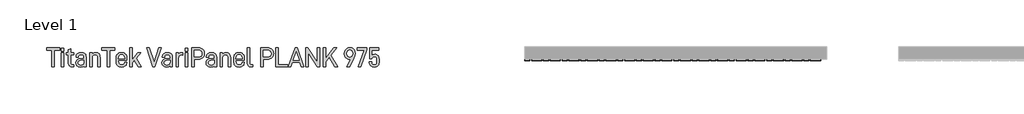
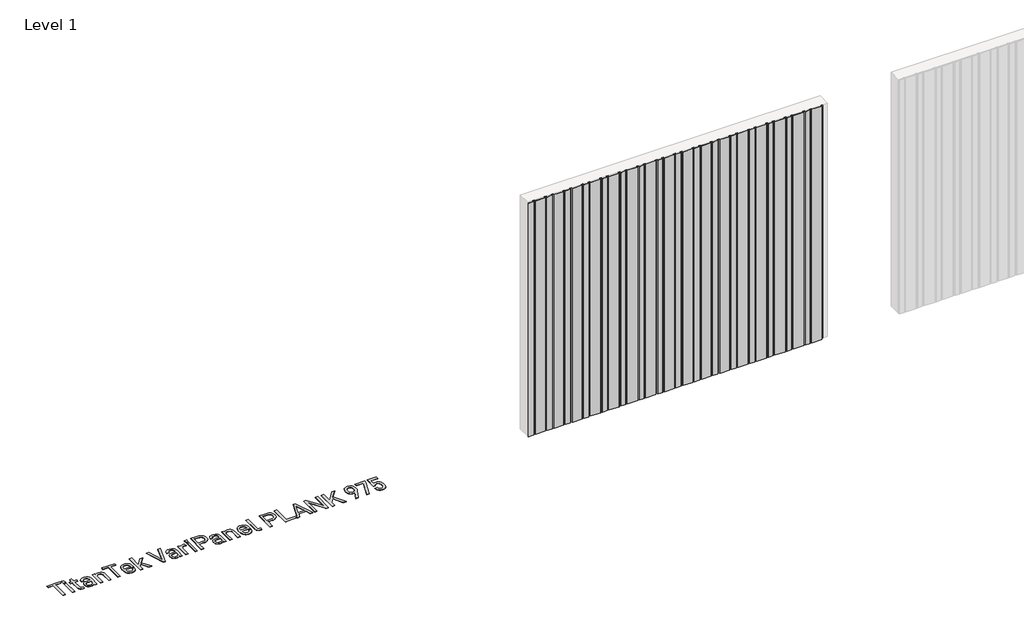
# One storey, part 19 of 33: 2 proxies.
"""IFC4 building model written with IfcOpenShell, lengths in millimetres."""

from ifc_helpers import new_model, si_unit, origin, origin_with_axes, place, context, project, spatial, polyline, outline, extrude, transform, mapped, element, save
from components import aluminum_slate_gray_adac02c7

model = new_model("IFC4")

# Units and contexts
model_context = context("Model", 3, world=origin())
ifc_project = project(units=[si_unit("LENGTHUNIT", "METRE", prefix="MILLI")], contexts=[model_context])

# Site, building, storey
site = spatial("IfcSite", under=ifc_project)
building = spatial("IfcBuilding", under=site)
storey = spatial("IfcBuildingStorey", under=building, Name="Level 1", Elevation=0.0)

# Proxies
placement = place(None, origin())
element("IfcBuildingElementProxy", 1, Name="600mm Arial 2", ObjectType="600mm Arial 2", at=placement, inside=storey, context=model_context, shape_type="SweptSolid", body=[
    extrude(outline(polyline([(-9914.9924556, 57220.4128343), (-9914.9924556, 56952.9873502), (-9954.4439015, 56952.9873502), (-9954.4439015, 57220.4128343), (-10038.8787304, 57220.4128343), (-10038.8787304, 57257.3166776), (-9830.5576267, 57257.3166776), (-9830.5576267, 57220.4128343), (-9914.9924556, 57220.4128343)])), origin_with_axes(), (0.0, 0.0, 1.0), 5.0),
    extrude(outline(polyline([(-9763.1553408, 57253.0221475), (-9763.1553408, 57205.8551051), (-9802.6067867, 57205.8551051), (-9802.6067867, 57253.0221475), (-9763.1553408, 57253.0221475)])), origin_with_axes(), (0.0, 0.0, 1.0), 5.0),
    extrude(outline(polyline([(-9764.0288046, 57178.8505176), (-9764.0288046, 56952.9873502), (-9801.733323, 56952.9873502), (-9801.733323, 57178.8505176), (-9764.0288046, 57178.8505176)])), origin_with_axes(), (0.0, 0.0, 1.0), 5.0),
    extrude(outline(polyline([(-9648.294858, 57012.601251), (-9646.8208879, 57001.5191797), (-9642.3989777, 56993.6034145), (-9635.0291273, 56988.8539554), (-9624.7113368, 56987.2708023), (-9603.2386864, 56987.2708023), (-9603.2386864, 56952.9873502), (-9629.3698101, 56952.9873502), (-9653.1535001, 56956.9543314), (-9671.3688587, 56968.855275), (-9682.6692959, 56987.3981825), (-9686.4361083, 57011.2910554), (-9686.4361083, 57147.1146681), (-9720.2828285, 57147.1146681), (-9720.2828285, 57178.8505176), (-9686.4361083, 57178.8505176), (-9686.4361083, 57226.8910237), (-9648.294858, 57244.8698192), (-9648.294858, 57178.8505176), (-9599.3808881, 57178.8505176), (-9599.3808881, 57147.1146681), (-9648.294858, 57147.1146681), (-9648.294858, 57012.601251)])), origin_with_axes(), (0.0, 0.0, 1.0), 5.0),
    extrude(outline(polyline([(-9422.8684225, 57162.1091291), (-9413.2830677, 57151.3409589), (-9406.4363858, 57138.2526505), (-9400.9590402, 57105.1156196), (-9400.9590402, 56952.9873502), (-9438.2996154, 56952.9873502), (-9438.2996154, 56969.2920069), (-9456.7151427, 56956.8451485), (-9473.7476858, 56952.0410978), (-9493.9829293, 56950.4397476), (-9526.0281305, 56954.7160806), (-9550.1029751, 56967.5450794), (-9565.2248162, 56989.3270816), (-9570.2654299, 57018.5699199), (-9565.1338304, 57046.2114081), (-9549.7390318, 57067.4111012), (-9525.063681, 57080.6222403), (-9493.1094655, 57085.0259534), (-9438.7363472, 57085.0259534), (-9438.7363472, 57105.5523515), (-9441.6296959, 57124.441005), (-9450.3097419, 57138.1616647), (-9464.2305704, 57146.1866129), (-9483.7197302, 57148.8615956), (-9502.2262434, 57146.6051476), (-9515.819523, 57139.8358036), (-9524.1720201, 57129.4816187), (-9526.9561857, 57115.4516073), (-9526.9561857, 57109.8468816), (-9563.8600291, 57109.8468816), (-9563.8600291, 57116.2522824), (-9558.4008807, 57143.2932642), (-9542.0234354, 57164.2927885), (-9516.8203668, 57177.4493362), (-9484.1564621, 57181.8348521), (-9448.6719974, 57176.9034213), (-9434.5600987, 57170.7391329), (-9422.8684225, 57162.1091291)]), holes=[polyline([(-9450.6736851, 56994.5496669), (-9441.7206817, 57009.4531421), (-9438.7363472, 57031.0167784), (-9438.7363472, 57054.9642428), (-9488.8149354, 57054.9642428), (-9507.9538, 57052.7168933), (-9521.6244175, 57045.974845), (-9529.826788, 57034.7380979), (-9532.5609115, 57019.0066518), (-9529.8540837, 57003.0522906), (-9521.7336004, 56991.6563182), (-9508.1994616, 56984.8187348), (-9489.2516673, 56982.5395404), (-9466.104878, 56985.542072), (-9450.6736851, 56994.5496669)])]), origin_with_axes(), (0.0, 0.0, 1.0), 5.0),
    extrude(outline(polyline([(-9306.6977441, 57178.8505176), (-9306.6977441, 57160.4349903), (-9288.2822167, 57173.6825238), (-9271.1222935, 57179.4692211), (-9252.2518372, 57181.3981202), (-9219.9154813, 57175.9389718), (-9206.7907787, 57169.1150363), (-9195.6950595, 57159.5615265), (-9187.0650557, 57147.9790333), (-9180.9007673, 57134.1946835), (-9175.9693365, 57100.0204144), (-9175.9693365, 56952.9873502), (-9213.673855, 56952.9873502), (-9213.673855, 57095.7258843), (-9216.6763866, 57118.1083928), (-9225.6839815, 57133.8671346), (-9240.3781893, 57143.4752358), (-9259.567096, 57146.6779363), (-9278.7378056, 57143.4752358), (-9293.3774219, 57133.8671346), (-9303.0401146, 57117.453295), (-9306.2610122, 57095.7258843), (-9306.2610122, 56952.9873502), (-9343.9655306, 56952.9873502), (-9343.9655306, 57178.8505176), (-9306.6977441, 57178.8505176)])), origin_with_axes(), (0.0, 0.0, 1.0), 5.0),
    extrude(outline(polyline([(-9025.2240514, 57220.4128343), (-9025.2240514, 56952.9873502), (-9064.6754974, 56952.9873502), (-9064.6754974, 57220.4128343), (-9149.1103263, 57220.4128343), (-9149.1103263, 57257.3166776), (-8940.7892225, 57257.3166776), (-8940.7892225, 57220.4128343), (-9025.2240514, 57220.4128343)])), origin_with_axes(), (0.0, 0.0, 1.0), 5.0),
    extrude(outline(polyline([(-8884.5235994, 57047.2486463), (-8881.1025331, 57017.8329349), (-8870.8393341, 56998.8805913), (-8854.3527058, 56988.5900965), (-8832.2613519, 56985.1599316), (-8812.990558, 56987.7257314), (-8798.8513635, 56995.4231306), (-8790.1713175, 57007.1966941), (-8787.2779689, 57022.86445), (-8787.2779689, 57028.3963871), (-8750.3741256, 57028.3963871), (-8750.3741256, 57021.9909863), (-8756.0516399, 56992.8391337), (-8763.1485329, 56980.528754), (-8773.084183, 56969.7287387), (-8799.7976159, 56955.2619954), (-8834.3722226, 56950.4397476), (-8853.3222916, 56951.9387388), (-8870.2843206, 56956.4357123), (-8885.2583098, 56963.9306682), (-8898.2442591, 56974.4236064), (-8908.7371973, 56988.0237099), (-8916.2321532, 57004.8401617), (-8920.7291267, 57024.8729617), (-8922.2281179, 57048.1221101), (-8922.2281179, 57085.8266285), (-8920.7314014, 57108.5321367), (-8916.2412518, 57128.1714231), (-8908.7576691, 57144.7444879), (-8898.2806535, 57158.2513309), (-8885.4971476, 57168.5691214), (-8870.7301511, 57175.9389718), (-8853.979664, 57180.360882), (-8835.2456864, 57181.8348521), (-8816.8438069, 57180.360882), (-8800.2161506, 57175.9389718), (-8785.3627176, 57168.5691214), (-8772.2835079, 57158.2513309), (-8761.9657174, 57144.9082623), (-8754.595867, 57128.389789), (-8750.1739568, 57108.6959111), (-8748.6999867, 57085.8266285), (-8748.6999867, 57055.8377065), (-8884.5235994, 57055.8377065), (-8884.5235994, 57047.2486463)]), holes=[polyline([(-8871.2760659, 57133.4304027), (-8881.2117161, 57115.30603), (-8884.5235994, 57086.7000923), (-8786.4045051, 57086.2633604), (-8786.4045051, 57089.6844267), (-8789.6254027, 57116.9255774), (-8799.2880954, 57134.3038665), (-8814.9012599, 57143.5844188), (-8835.2456864, 57146.6779363), (-8855.60831, 57143.3660529), (-8871.2760659, 57133.4304027)])]), origin_with_axes(), (0.0, 0.0, 1.0), 5.0),
    extrude(outline(polyline([(-8663.391694, 57020.3168474), (-8663.391694, 56952.9873502), (-8701.0962125, 56952.9873502), (-8701.0962125, 57257.3166776), (-8663.391694, 57257.3166776), (-8663.391694, 57070.8321675), (-8575.0990669, 57178.8505176), (-8528.3687564, 57178.8505176), (-8602.5403863, 57091.8680861), (-8517.6688255, 56952.9873502), (-8563.5256722, 56952.9873502), (-8627.7980463, 57062.6798392), (-8663.391694, 57020.3168474)])), origin_with_axes(), (0.0, 0.0, 1.0), 5.0),
    extrude(outline(polyline([(-8240.5624516, 57257.3166776), (-8199.0001349, 57257.3166776), (-8298.4294248, 56952.9873502), (-8330.1652743, 56952.9873502), (-8429.1578324, 57257.3166776), (-8387.5955157, 57257.3166776), (-8313.8606177, 57022.86445), (-8240.5624516, 57257.3166776)])), origin_with_axes(), (0.0, 0.0, 1.0), 5.0),
    extrude(outline(polyline([(-8039.3018464, 57162.1091291), (-8029.7164916, 57151.3409589), (-8022.8698097, 57138.2526505), (-8017.3924641, 57105.1156196), (-8017.3924641, 56952.9873502), (-8054.7330393, 56952.9873502), (-8054.7330393, 56969.2920069), (-8073.1485666, 56956.8451485), (-8090.1811097, 56952.0410978), (-8110.4163532, 56950.4397476), (-8142.4615544, 56954.7160806), (-8166.536399, 56967.5450794), (-8181.6582401, 56989.3270816), (-8186.6988538, 57018.5699199), (-8181.5672543, 57046.2114081), (-8166.1724557, 57067.4111012), (-8141.4971049, 57080.6222403), (-8109.5428894, 57085.0259534), (-8055.1697712, 57085.0259534), (-8055.1697712, 57105.5523515), (-8058.0631198, 57124.441005), (-8066.7431658, 57138.1616647), (-8080.6639943, 57146.1866129), (-8100.1531542, 57148.8615956), (-8118.6596673, 57146.6051476), (-8132.2529469, 57139.8358036), (-8140.605444, 57129.4816187), (-8143.3896097, 57115.4516073), (-8143.3896097, 57109.8468816), (-8180.293453, 57109.8468816), (-8180.293453, 57116.2522824), (-8174.8343046, 57143.2932642), (-8158.4568593, 57164.2927885), (-8133.2537908, 57177.4493362), (-8100.589886, 57181.8348521), (-8065.1054213, 57176.9034213), (-8050.9935226, 57170.7391329), (-8039.3018464, 57162.1091291)]), holes=[polyline([(-8067.107109, 56994.5496669), (-8058.1541056, 57009.4531421), (-8055.1697712, 57031.0167784), (-8055.1697712, 57054.9642428), (-8105.2483594, 57054.9642428), (-8124.3872239, 57052.7168933), (-8138.0578414, 57045.974845), (-8146.2602119, 57034.7380979), (-8148.9943354, 57019.0066518), (-8146.2875076, 57003.0522906), (-8138.1670243, 56991.6563182), (-8124.6328855, 56984.8187348), (-8105.6850912, 56982.5395404), (-8082.5383019, 56985.542072), (-8067.107109, 56994.5496669)])]), origin_with_axes(), (0.0, 0.0, 1.0), 5.0),
    extrude(outline(polyline([(-7870.4321886, 57181.8348521), (-7850.2697337, 57179.7239814), (-7850.2697337, 57140.7092673), (-7876.8375894, 57146.313993), (-7895.1712295, 57142.7746451), (-7909.8472402, 57132.1566015), (-7919.4826371, 57115.7518604), (-7922.6944361, 57094.8524206), (-7922.6944361, 56952.9873502), (-7960.3989546, 56952.9873502), (-7960.3989546, 57178.8505176), (-7923.131168, 57178.8505176), (-7923.131168, 57159.1247947), (-7905.5891044, 57173.3185806), (-7889.4846166, 57179.7057842), (-7870.4321886, 57181.8348521)])), origin_with_axes(), (0.0, 0.0, 1.0), 5.0),
    extrude(outline(polyline([(-7773.9872331, 57253.0221475), (-7773.9872331, 57205.8551051), (-7813.438679, 57205.8551051), (-7813.438679, 57253.0221475), (-7773.9872331, 57253.0221475)])), origin_with_axes(), (0.0, 0.0, 1.0), 5.0),
    extrude(outline(polyline([(-7774.8606969, 57178.8505176), (-7774.8606969, 56952.9873502), (-7812.5652153, 56952.9873502), (-7812.5652153, 57178.8505176), (-7774.8606969, 57178.8505176)])), origin_with_axes(), (0.0, 0.0, 1.0), 5.0),
    extrude(outline(polyline([(-7529.6357497, 57233.2964245), (-7518.2033831, 57219.8396237), (-7510.0374069, 57203.926206), (-7505.1378212, 57185.5561716), (-7503.504626, 57164.7295204), (-7505.1651169, 57145.044741), (-7510.1465899, 57127.5527196), (-7518.4490448, 57112.2534562), (-7530.0724816, 57099.1469507), (-7544.1297888, 57088.6380899), (-7560.6073184, 57081.1317609), (-7579.5050706, 57076.6279634), (-7600.8230452, 57075.1266976), (-7671.5008201, 57075.1266976), (-7671.5008201, 56952.9873502), (-7711.3889979, 56952.9873502), (-7711.3889979, 57257.3166776), (-7600.8230452, 57257.3166776), (-7579.6415493, 57255.8154118), (-7560.7165014, 57251.3116143), (-7544.0479016, 57243.8052853), (-7529.6357497, 57233.2964245)]), holes=[polyline([(-7558.3872648, 57125.2780744), (-7547.141419, 57141.5827311), (-7543.3928038, 57164.7295204), (-7547.250602, 57189.3502798), (-7558.8239966, 57206.7285689), (-7577.8946218, 57216.9917679), (-7603.3706478, 57220.4128343), (-7671.5008201, 57220.4128343), (-7671.5008201, 57112.0305409), (-7603.3706478, 57112.0305409), (-7577.130341, 57115.3424243), (-7558.3872648, 57125.2780744)])]), origin_with_axes(), (0.0, 0.0, 1.0), 5.0),
    extrude(outline(polyline([(-7331.2139018, 57162.1091291), (-7321.628547, 57151.3409589), (-7314.781865, 57138.2526505), (-7309.3045194, 57105.1156196), (-7309.3045194, 56952.9873502), (-7346.6450946, 56952.9873502), (-7346.6450946, 56969.2920069), (-7365.060622, 56956.8451485), (-7382.093165, 56952.0410978), (-7402.3284085, 56950.4397476), (-7434.3736098, 56954.7160806), (-7458.4484543, 56967.5450794), (-7473.5702954, 56989.3270816), (-7478.6109091, 57018.5699199), (-7473.4793096, 57046.2114081), (-7458.0845111, 57067.4111012), (-7433.4091602, 57080.6222403), (-7401.4549448, 57085.0259534), (-7347.0818265, 57085.0259534), (-7347.0818265, 57105.5523515), (-7349.9751752, 57124.441005), (-7358.6552212, 57138.1616647), (-7372.5760496, 57146.1866129), (-7392.0652095, 57148.8615956), (-7410.5717226, 57146.6051476), (-7424.1650022, 57139.8358036), (-7432.5174993, 57129.4816187), (-7435.301665, 57115.4516073), (-7435.301665, 57109.8468816), (-7472.2055083, 57109.8468816), (-7472.2055083, 57116.2522824), (-7466.7463599, 57143.2932642), (-7450.3689146, 57164.2927885), (-7425.1658461, 57177.4493362), (-7392.5019414, 57181.8348521), (-7357.0174766, 57176.9034213), (-7342.905578, 57170.7391329), (-7331.2139018, 57162.1091291)]), holes=[polyline([(-7359.0191644, 56994.5496669), (-7350.066161, 57009.4531421), (-7347.0818265, 57031.0167784), (-7347.0818265, 57054.9642428), (-7397.1604147, 57054.9642428), (-7416.2992792, 57052.7168933), (-7429.9698967, 57045.974845), (-7438.1722672, 57034.7380979), (-7440.9063907, 57019.0066518), (-7438.199563, 57003.0522906), (-7430.0790797, 56991.6563182), (-7416.5449409, 56984.8187348), (-7397.5971466, 56982.5395404), (-7374.4503573, 56985.542072), (-7359.0191644, 56994.5496669)])]), origin_with_axes(), (0.0, 0.0, 1.0), 5.0),
    extrude(outline(polyline([(-7215.0432233, 57178.8505176), (-7215.0432233, 57160.4349903), (-7196.627696, 57173.6825238), (-7179.4677728, 57179.4692211), (-7160.5973164, 57181.3981202), (-7128.2609606, 57175.9389718), (-7115.1362579, 57169.1150363), (-7104.0405387, 57159.5615265), (-7095.410535, 57147.9790333), (-7089.2462465, 57134.1946835), (-7084.3148158, 57100.0204144), (-7084.3148158, 56952.9873502), (-7122.0193342, 56952.9873502), (-7122.0193342, 57095.7258843), (-7125.0218659, 57118.1083928), (-7134.0294607, 57133.8671346), (-7148.7236686, 57143.4752358), (-7167.9125753, 57146.6779363), (-7187.0832848, 57143.4752358), (-7201.7229012, 57133.8671346), (-7211.3855939, 57117.453295), (-7214.6064915, 57095.7258843), (-7214.6064915, 56952.9873502), (-7252.3110099, 56952.9873502), (-7252.3110099, 57178.8505176), (-7215.0432233, 57178.8505176)])), origin_with_axes(), (0.0, 0.0, 1.0), 5.0),
    extrude(outline(polyline([(-6997.8419048, 57047.2486463), (-6994.4208384, 57017.8329349), (-6984.1576394, 56998.8805913), (-6967.6710112, 56988.5900965), (-6945.5796572, 56985.1599316), (-6926.3088633, 56987.7257314), (-6912.1696689, 56995.4231306), (-6903.4896229, 57007.1966941), (-6900.5962742, 57022.86445), (-6900.5962742, 57028.3963871), (-6863.6924309, 57028.3963871), (-6863.6924309, 57021.9909863), (-6869.3699452, 56992.8391337), (-6876.4668382, 56980.528754), (-6886.4024883, 56969.7287387), (-6913.1159213, 56955.2619954), (-6947.6905279, 56950.4397476), (-6966.6405969, 56951.9387388), (-6983.602626, 56956.4357123), (-6998.5766152, 56963.9306682), (-7011.5625645, 56974.4236064), (-7022.0555027, 56988.0237099), (-7029.5504585, 57004.8401617), (-7034.047432, 57024.8729617), (-7035.5464232, 57048.1221101), (-7035.5464232, 57085.8266285), (-7034.0497067, 57108.5321367), (-7029.5595571, 57128.1714231), (-7022.0759745, 57144.7444879), (-7011.5989588, 57158.2513309), (-6998.8154529, 57168.5691214), (-6984.0484564, 57175.9389718), (-6967.2979694, 57180.360882), (-6948.5639917, 57181.8348521), (-6930.1621122, 57180.360882), (-6913.534456, 57175.9389718), (-6898.681023, 57168.5691214), (-6885.6018132, 57158.2513309), (-6875.2840227, 57144.9082623), (-6867.9141723, 57128.389789), (-6863.4922621, 57108.6959111), (-6862.018292, 57085.8266285), (-6862.018292, 57055.8377065), (-6997.8419048, 57055.8377065), (-6997.8419048, 57047.2486463)]), holes=[polyline([(-6984.5943713, 57133.4304027), (-6994.5300214, 57115.30603), (-6997.8419048, 57086.7000923), (-6899.7228105, 57086.2633604), (-6899.7228105, 57089.6844267), (-6902.943708, 57116.9255774), (-6912.6064007, 57134.3038665), (-6928.2195652, 57143.5844188), (-6948.5639917, 57146.6779363), (-6968.9266153, 57143.3660529), (-6984.5943713, 57133.4304027)])]), origin_with_axes(), (0.0, 0.0, 1.0), 5.0),
    extrude(outline(polyline([(-6799.4200568, 56968.855275), (-6810.6659025, 56988.362632), (-6814.4145178, 57014.2753899), (-6814.4145178, 57257.3166776), (-6776.7099994, 57257.3166776), (-6776.7099994, 57016.0223174), (-6775.3270151, 57002.6110094), (-6771.1780623, 56994.112935), (-6764.1903523, 56989.6364333), (-6753.5632101, 56988.1442661), (-6731.7266164, 56988.1442661), (-6731.7266164, 56952.9873502), (-6756.5475445, 56952.9873502), (-6781.4230642, 56956.9543314), (-6799.4200568, 56968.855275)])), origin_with_axes(), (0.0, 0.0, 1.0), 5.0),
    extrude(outline(polyline([(-6420.9190995, 57233.2964245), (-6409.4867329, 57219.8396237), (-6401.3207567, 57203.926206), (-6396.421171, 57185.5561716), (-6394.7879758, 57164.7295204), (-6396.4484667, 57145.044741), (-6401.4299397, 57127.5527196), (-6409.7323946, 57112.2534562), (-6421.3558314, 57099.1469507), (-6435.4131386, 57088.6380899), (-6451.8906682, 57081.1317609), (-6470.7884204, 57076.6279634), (-6492.106395, 57075.1266976), (-6562.7841699, 57075.1266976), (-6562.7841699, 56952.9873502), (-6602.6723477, 56952.9873502), (-6602.6723477, 57257.3166776), (-6492.106395, 57257.3166776), (-6470.9248991, 57255.8154118), (-6451.9998512, 57251.3116143), (-6435.3312514, 57243.8052853), (-6420.9190995, 57233.2964245)]), holes=[polyline([(-6449.6706146, 57125.2780744), (-6438.4247688, 57141.5827311), (-6434.6761536, 57164.7295204), (-6438.5339518, 57189.3502798), (-6450.1073464, 57206.7285689), (-6469.1779716, 57216.9917679), (-6494.6539976, 57220.4128343), (-6562.7841699, 57220.4128343), (-6562.7841699, 57112.0305409), (-6494.6539976, 57112.0305409), (-6468.4136908, 57115.3424243), (-6449.6706146, 57125.2780744)])]), origin_with_axes(), (0.0, 0.0, 1.0), 5.0),
    extrude(outline(polyline([(-6315.8850839, 57257.3166776), (-6315.8850839, 56989.8184049), (-6168.4880765, 56989.8184049), (-6168.4880765, 56952.9873502), (-6355.7732617, 56952.9873502), (-6355.7732617, 57257.3166776), (-6315.8850839, 57257.3166776)])), origin_with_axes(), (0.0, 0.0, 1.0), 5.0),
    extrude(outline(polyline([(-6093.6613488, 57024.1746457), (-6118.482277, 56952.9873502), (-6160.4813255, 56952.9873502), (-6049.9153728, 57257.3166776), (-6017.81558, 57257.3166776), (-5907.1768387, 56952.9873502), (-5949.1758872, 56952.9873502), (-5974.069604, 57024.1746457), (-6093.6613488, 57024.1746457)]), holes=[polyline([(-6034.047448, 57196.4653699), (-6081.6512223, 57059.2587729), (-5986.0797306, 57059.2587729), (-6034.047448, 57196.4653699)])]), origin_with_axes(), (0.0, 0.0, 1.0), 5.0),
    extrude(outline(polyline([(-5696.3081323, 57257.3166776), (-5656.4199545, 57257.3166776), (-5656.4199545, 56952.9873502), (-5694.1972616, 56952.9873502), (-5840.7208052, 57181.3981202), (-5840.7208052, 56952.9873502), (-5880.608983, 56952.9873502), (-5880.608983, 57257.3166776), (-5842.9044646, 57257.3166776), (-5696.3081323, 57029.7065827), (-5696.3081323, 57257.3166776)])), origin_with_axes(), (0.0, 0.0, 1.0), 5.0),
    extrude(outline(polyline([(-5556.5539327, 57036.9854473), (-5556.5539327, 56952.9873502), (-5596.4421105, 56952.9873502), (-5596.4421105, 57257.3166776), (-5556.5539327, 57257.3166776), (-5556.5539327, 57093.1054931), (-5426.262257, 57257.3166776), (-5377.8578077, 57257.3166776), (-5475.1762269, 57137.288201), (-5365.8476812, 56952.9873502), (-5412.5779917, 56952.9873502), (-5500.8706188, 57105.5523515), (-5556.5539327, 57036.9854473)])), origin_with_axes(), (0.0, 0.0, 1.0), 5.0),
    extrude(outline(polyline([(-5109.4860713, 57237.5909546), (-5099.3593509, 57224.9439275), (-5092.1259793, 57210.1496352), (-5087.7859563, 57193.208078), (-5086.339282, 57174.1192557), (-5086.339282, 57159.5615265), (-5091.0705439, 57127.825677), (-5104.3180774, 57094.8524206), (-5174.1951772, 56952.9873502), (-5216.1942258, 56952.9873502), (-5155.342918, 57077.7470888), (-5158.7639844, 57076.4368932), (-5178.0529754, 57073.8892906), (-5194.607843, 57075.3587114), (-5209.5522618, 57079.7669738), (-5222.8862319, 57087.1140777), (-5234.6097531, 57097.4000232), (-5243.9721926, 57110.0743461), (-5250.6596495, 57124.5137937), (-5256.0096149, 57158.6880628), (-5256.0096149, 57173.3185806), (-5253.2254492, 57198.9947753), (-5244.8729521, 57220.4128343), (-5231.4798413, 57238.1004752), (-5214.4472983, 57250.8384881), (-5194.2120548, 57258.8634363), (-5171.2108428, 57261.5384191), (-5152.8863012, 57260.0417025), (-5136.4906588, 57255.551553), (-5122.0239155, 57248.0679703), (-5109.4860713, 57237.5909546)]), holes=[polyline([(-5126.591403, 57159.9982584), (-5126.591403, 57174.5559875), (-5129.5939346, 57195.8830607), (-5138.6015295, 57211.8237741), (-5152.5314566, 57221.8140157), (-5171.1744484, 57225.1440962), (-5189.9266233, 57221.8140157), (-5204.1840992, 57211.8237741), (-5213.1916941, 57195.5555118), (-5216.1942258, 57174.9927194), (-5216.1942258, 57160.4349903), (-5213.1916941, 57139.3080859), (-5204.1840992, 57123.9678788), (-5189.9266233, 57114.0322287), (-5171.1744484, 57110.7203453), (-5152.5314566, 57113.9412429), (-5138.6015295, 57123.6039356), (-5129.5939346, 57139.326283), (-5126.591403, 57159.9982584)])]), origin_with_axes(), (0.0, 0.0, 1.0), 5.0),
    extrude(outline(polyline([(-4895.5602418, 57223.8339006), (-4993.2426042, 56952.9873502), (-5033.5675139, 56952.9873502), (-4935.8123628, 57220.4128343), (-5054.5306438, 57220.4128343), (-5054.5306438, 57257.3166776), (-4895.5602418, 57257.3166776), (-4895.5602418, 57223.8339006)])), origin_with_axes(), (0.0, 0.0, 1.0), 5.0),
    extrude(outline(polyline([(-4835.6551864, 56968.4185431), (-4845.017626, 56978.9728967), (-4851.7050828, 56991.3469665), (-4857.0550482, 57021.5542544), (-4857.0550482, 57031.4535102), (-4818.477066, 57031.4535102), (-4818.477066, 57024.1746457), (-4815.9112663, 57007.7426089), (-4808.213867, 56995.4231306), (-4795.3666711, 56988.0532803), (-4778.224945, 56985.5966635), (-4760.4235719, 56988.8084625), (-4747.7083053, 56998.4438594), (-4740.0791454, 57014.5028544), (-4737.5360921, 57036.9854473), (-4737.5360921, 57064.8634986), (-4739.9927089, 57088.2286538), (-4747.3625593, 57104.3149445), (-4759.6638404, 57113.5954968), (-4777.7882131, 57116.6890143), (-4791.1813239, 57114.8692981), (-4802.2451981, 57109.4101497), (-4811.4529617, 57099.8748371), (-4817.6763909, 57086.7000923), (-4852.3965749, 57086.7000923), (-4852.3965749, 57257.3166776), (-4702.3791763, 57257.3166776), (-4702.3791763, 57219.9761024), (-4815.0559997, 57219.9761024), (-4815.0559997, 57139.8358036), (-4801.3717343, 57147.9881319), (-4773.493683, 57153.5928576), (-4755.7923943, 57152.1461833), (-4740.3930464, 57147.8061603), (-4727.2956395, 57140.5727886), (-4716.5001735, 57130.4460683), (-4702.3609791, 57103.1139318), (-4697.6479143, 57066.5376374), (-4697.6479143, 57034.4378447), (-4703.0069783, 56998.5166481), (-4709.7058084, 56983.8588346), (-4719.0841704, 56971.4028776), (-4730.7917692, 56961.4672275), (-4744.4783092, 56954.3703345), (-4777.7882131, 56948.6928201), (-4810.6704838, 56953.6242509), (-4835.6551864, 56968.4185431)])), origin_with_axes(), (0.0, 0.0, 1.0), 5.0),
])
aluminum_slate_gray_shape = aluminum_slate_gray_adac02c7(model_context)
element("IfcBuildingElementProxy", 2, Name="TitanTek VariPanel PLANK 975 : Aluminum Slate Gray", ObjectType="TitanTek VariPanel PLANK 975 : Aluminum Slate Gray", at=placement, inside=storey, context=model_context, shape_type="MappedRepresentation", body=[
    mapped(aluminum_slate_gray_shape, transform((-2360.5897817, 57078.6095025, 0.0), x_axis=(1.0, 0.0, 0.0), y_axis=(0.0, 1.0, 0.0), z_axis=(0.0, 0.0, 1.0))),
])

save(model, "model.ifc")
